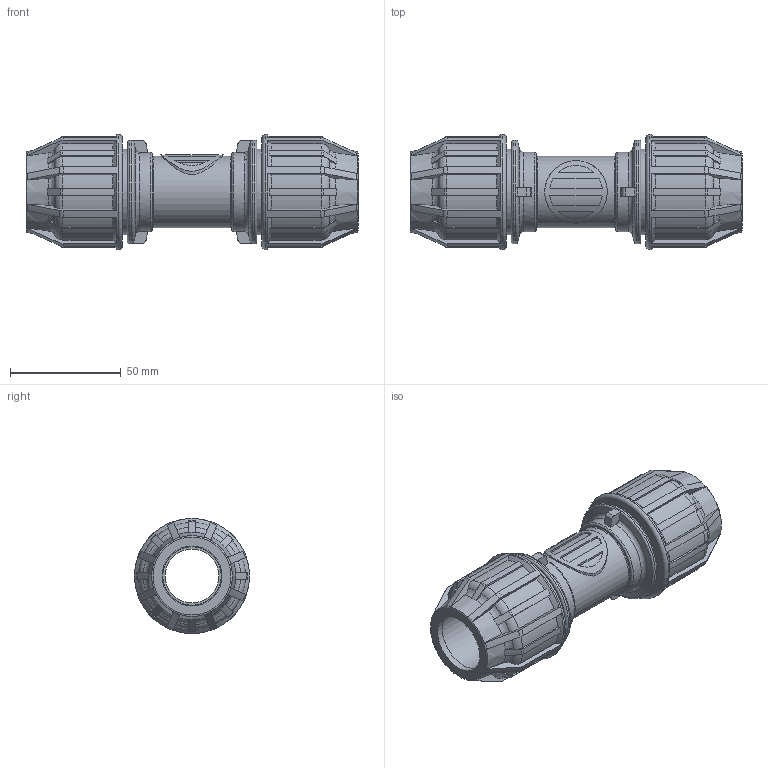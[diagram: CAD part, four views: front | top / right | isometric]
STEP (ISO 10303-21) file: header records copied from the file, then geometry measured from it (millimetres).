
FILE_DESCRIPTION(/* description */ ('STEP AP214'),/* implementation_level */ '2;1');
FILE_NAME(/* name */ '331B00025(400)',/* time_stamp */ '2025-01-13T14:29:04+01:00',/* author */ ('License CC BY-ND 4.0'),/* organization */ ('CADENAS'),/* preprocessor_version */ 'ST-DEVELOPER v19.3',/* originating_system */ 'PARTsolutions',/* authorisation */ ' ');
FILE_SCHEMA (('AUTOMOTIVE_DESIGN {1 0 10303 214 3 1 1}'));
Length unit declared in the file: millimetre
Products named in the file (1): 331B00025(400)
Bounding box: 150 x 52 x 52 mm (x, y, z)
Volume: 123809.7 mm3; surface area: 41841.5 mm2
Topology: 1 solids, 1 shells, 362 faces, 1024 edges, 679 vertices
Faces by surface type: torus 114, plane 98, cylinder 82, cone 68
Full cylindrical faces by diameter (mm): 24.3 x1, 27 x2, 28.2 x1, 29 x2, 32.24 x1, 35.88 x2, 38.48 x2, 46.8 x2, 52 x2
Entity records: 12233 total; most frequent: CARTESIAN_POINT 3584, ORIENTED_EDGE 1972, DIRECTION 1578, EDGE_CURVE 986, AXIS2_PLACEMENT_3D 695, VERTEX_POINT 670, B_SPLINE_CURVE_WITH_KNOTS 466, EDGE_LOOP 408
